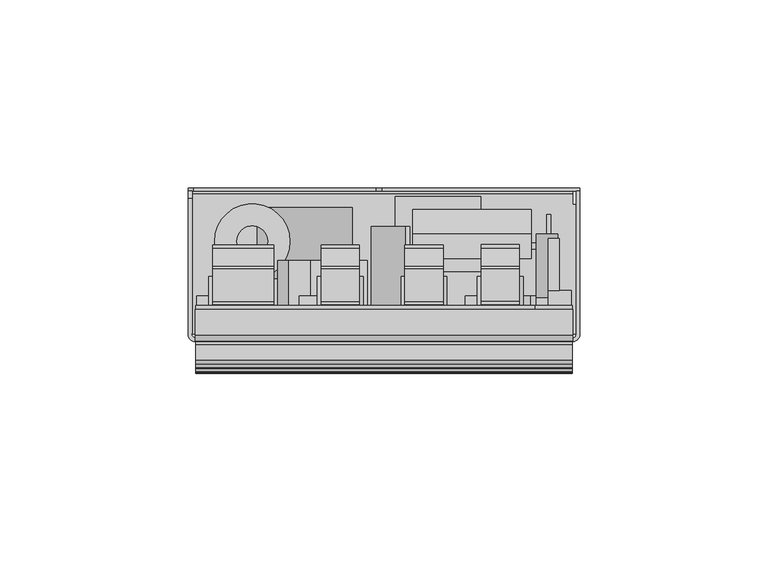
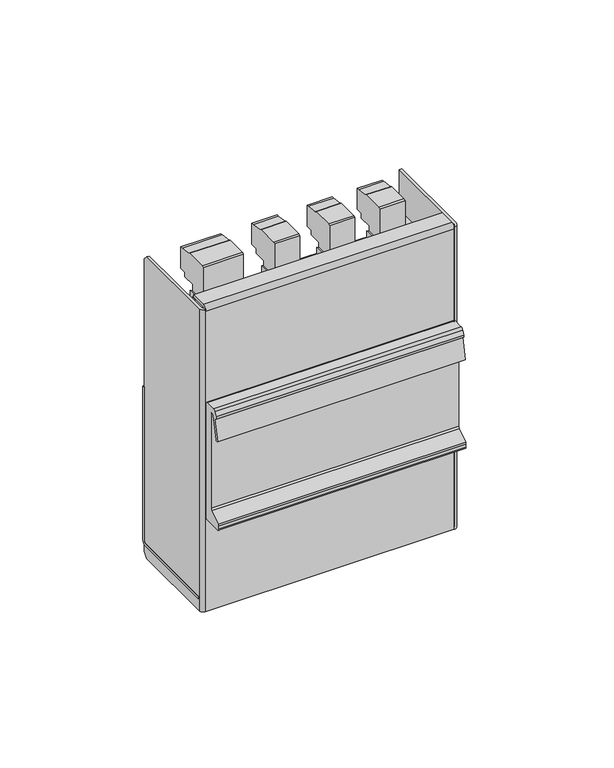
"""IFC4 building model written with IfcOpenShell, lengths in millimetres: proxy geometry, FITIN 12V 6A CG1 : FITIN 12V 6A CG1."""

from ifc_helpers import new_model, si_unit, point, frame, frame_2d, origin, place, context, project, spatial, polyline, circle_curve, trimmed, segment, composite_curve, outline, extrude, source, transform, mapped, element, save
from ifc_brep_helpers import plane_surface, cylinder_surface, revolved_surface, advanced_brep


def electrical_equipment_25405dab(model_context):
    return source(origin(), model_context, "Body", "SolidModel", [
        extrude(outline(composite_curve([segment(polyline([(-0.6225672, 139.52), (8.0448786, 139.52), (8.7300831, 139.124397), (13.4867371, 138.4135103), (14.4539059, 138.4135103), (14.4539059, 129.36), (11.5126565, 129.36), (11.5126565, 127.51), (6.1055, 127.51), (5.966034, 119.52), (-0.0873435, 119.52), (-0.0873435, 127.51), (-1.3898441, 127.51), (-1.3898441, 139.21)]), True, "CONTINUOUS"), segment(trimmed(circle_curve(frame_2d((-1.2764233, 140.0338121)), 0.8315832), [point((-1.3898441, 139.21))], [point((-0.6225672, 139.52))], True, "CARTESIAN"), True, "CONTINUOUS")], self_intersect=False)), frame((-42.8751438, 0.0, 0.0), z_axis=(1.0, 0.0, 0.0), x_axis=(0.0, 1.0, 0.0)), (0.0, 0.0, 1.0), 16.24),
        extrude(outline(composite_curve([segment(polyline([(-0.6225672, 139.52), (8.0448786, 139.52), (8.7300831, 139.124397), (13.4867371, 138.4135103), (14.4539059, 138.4135103), (14.4539059, 129.36), (11.5126565, 129.36), (11.5126565, 127.51), (6.1055, 127.51), (5.966034, 119.52), (-0.0873435, 119.52), (-0.0873435, 127.51), (-1.3898441, 127.51), (-1.3898441, 139.21)]), True, "CONTINUOUS"), segment(trimmed(circle_curve(frame_2d((-1.2764233, 140.0338121)), 0.8315832), [point((-1.3898441, 139.21))], [point((-0.6225672, 139.52))], True, "CARTESIAN"), True, "CONTINUOUS")], self_intersect=False)), frame((-14.0791059, 0.0, 0.0), z_axis=(1.0, 0.0, 0.0), x_axis=(0.0, 1.0, 0.0)), (0.0, 0.0, 1.0), 10.16),
        extrude(outline(polyline([(46.2900562, 16.0826559), (49.1800562, 16.0826559), (49.1800562, 2.3326559), (46.2900562, 2.3326559), (46.2900562, 16.0826559)])), frame((0.0, 0.0, 112.9298), z_axis=(0.0, 0.0, 1.0), x_axis=(1.0, 0.0, 0.0)), (0.0, 0.0, 1.0), 5.12),
        extrude(outline(polyline([(46.2900562, 2.3326559), (52.2900562, 2.3326559), (52.2900562, -1.6673441), (46.2900562, -1.6673441), (46.2900562, 2.3326559)])), frame((0.0, 0.0, 112.9298), z_axis=(0.0, 0.0, 1.0), x_axis=(1.0, 0.0, 0.0)), (0.0, 0.0, 1.0), 5.08),
        extrude(outline(polyline([(43.1150562, 0.3326559), (50.3540562, 0.3326559), (50.3540562, -1.6673441), (43.1150562, -1.6673441), (43.1150562, 0.3326559)])), frame((0.0, 0.0, 101.4998), z_axis=(0.0, 0.0, 1.0), x_axis=(1.0, 0.0, 0.0)), (0.0, 0.0, 1.0), 10.16),
        extrude(outline(composite_curve([segment(polyline([(6.4928421, 128.4098108), (9.3939564, 128.4098108)]), True, "CONTINUOUS"), segment(trimmed(circle_curve(frame_2d((8.0093301, 128.4067828)), 1.3846296), [point((9.3939564, 128.4098108))], [point((8.8958553, 127.3431699))], False, "CARTESIAN"), True, "CONTINUOUS"), segment(polyline([(8.8958553, 127.3431699), (8.1900779, 124.8818317), (7.8047422, 124.0554767), (7.1411514, 123.3918859)]), True, "CONTINUOUS"), segment(trimmed(circle_curve(frame_2d((6.9115007, 123.7572144)), 0.4315141), [point((7.1411514, 123.3918859))], [point((6.5190561, 123.9366345))], False, "CARTESIAN"), True, "CONTINUOUS"), segment(trimmed(circle_curve(frame_2d((5.8815125, 124.8818317)), 1.1401138), [point((6.5190561, 123.9366345))], [point((7.0216263, 124.8818317))], True, "CARTESIAN"), True, "CONTINUOUS"), segment(polyline([(7.0216263, 124.8818317), (7.0216263, 126.4256423), (6.4928421, 127.5098108), (6.4928421, 128.4098108)]), True, "CONTINUOUS")], self_intersect=False)), frame((-39.2881554, 0.0, 0.0), z_axis=(1.0, 0.0, 0.0), x_axis=(0.0, 1.0, 0.0)), (0.0, 0.0, 1.0), 1.5),
        extrude(outline(composite_curve([segment(polyline([(6.4928421, 128.4098108), (9.3939564, 128.4098108)]), True, "CONTINUOUS"), segment(trimmed(circle_curve(frame_2d((8.0093301, 128.4067828)), 1.3846296), [point((9.3939564, 128.4098108))], [point((8.8958553, 127.3431699))], False, "CARTESIAN"), True, "CONTINUOUS"), segment(polyline([(8.8958553, 127.3431699), (8.1900779, 124.8818317), (7.8047422, 124.0554767), (7.1411514, 123.3918859)]), True, "CONTINUOUS"), segment(trimmed(circle_curve(frame_2d((6.9115007, 123.7572144)), 0.4315141), [point((7.1411514, 123.3918859))], [point((6.5190561, 123.9366345))], False, "CARTESIAN"), True, "CONTINUOUS"), segment(trimmed(circle_curve(frame_2d((5.8815125, 124.8818317)), 1.1401138), [point((6.5190561, 123.9366345))], [point((7.0216263, 124.8818317))], True, "CARTESIAN"), True, "CONTINUOUS"), segment(polyline([(7.0216263, 124.8818317), (7.0216263, 126.4256423), (6.4928421, 127.5098108), (6.4928421, 128.4098108)]), True, "CONTINUOUS")], self_intersect=False)), frame((-32.7078756, 0.0, 0.0), z_axis=(1.0, 0.0, 0.0), x_axis=(0.0, 1.0, 0.0)), (0.0, 0.0, 1.0), 1.5),
        extrude(outline(composite_curve([segment(polyline([(6.4928421, 128.4098108), (9.3939564, 128.4098108)]), True, "CONTINUOUS"), segment(trimmed(circle_curve(frame_2d((8.0093301, 128.4067828)), 1.3846296), [point((9.3939564, 128.4098108))], [point((8.8958553, 127.3431699))], False, "CARTESIAN"), True, "CONTINUOUS"), segment(polyline([(8.8958553, 127.3431699), (8.1900779, 124.8818317), (7.8047422, 124.0554767), (7.1411514, 123.3918859)]), True, "CONTINUOUS"), segment(trimmed(circle_curve(frame_2d((6.9115007, 123.7572144)), 0.4315141), [point((7.1411514, 123.3918859))], [point((6.5190561, 123.9366345))], False, "CARTESIAN"), True, "CONTINUOUS"), segment(trimmed(circle_curve(frame_2d((5.8815125, 124.8818317)), 1.1401138), [point((6.5190561, 123.9366345))], [point((7.0216263, 124.8818317))], True, "CARTESIAN"), True, "CONTINUOUS"), segment(polyline([(7.0216263, 124.8818317), (7.0216263, 126.4256423), (6.4928421, 127.5098108), (6.4928421, 128.4098108)]), True, "CONTINUOUS")], self_intersect=False)), frame((-10.5056633, 0.0, 0.0), z_axis=(1.0, 0.0, 0.0), x_axis=(0.0, 1.0, 0.0)), (0.0, 0.0, 1.0), 1.5),
        extrude(outline(composite_curve([segment(polyline([(6.536418, 127.9242368), (9.4375324, 127.9242368)]), True, "CONTINUOUS"), segment(trimmed(circle_curve(frame_2d((8.0529061, 127.9212088)), 1.3846296), [point((9.4375324, 127.9242368))], [point((8.9394312, 126.8575959))], False, "CARTESIAN"), True, "CONTINUOUS"), segment(polyline([(8.9394312, 126.8575959), (8.2336539, 124.3962578), (7.8483182, 123.5699027), (7.1847274, 122.9063119)]), True, "CONTINUOUS"), segment(trimmed(circle_curve(frame_2d((6.9550767, 123.2716405)), 0.4315141), [point((7.1847274, 122.9063119))], [point((6.562632, 123.4510606))], False, "CARTESIAN"), True, "CONTINUOUS"), segment(trimmed(circle_curve(frame_2d((5.9250885, 124.3962578)), 1.1401138), [point((6.562632, 123.4510606))], [point((7.0652023, 124.3962578))], True, "CARTESIAN"), True, "CONTINUOUS"), segment(polyline([(7.0652023, 124.3962578), (7.0652023, 125.9400684), (6.536418, 127.0242368), (6.536418, 127.9242368)]), True, "CONTINUOUS")], self_intersect=False)), frame((32.0248562, 0.0, 0.0), z_axis=(1.0, 0.0, 0.0), x_axis=(0.0, 1.0, 0.0)), (0.0, 0.0, 1.0), 1.5),
        extrude(outline(composite_curve([segment(polyline([(6.5081453, 128.4024494), (9.4092597, 128.4024494)]), True, "CONTINUOUS"), segment(trimmed(circle_curve(frame_2d((8.0246334, 128.3994215)), 1.3846296), [point((9.4092597, 128.4024494))], [point((8.9111585, 127.3358086))], False, "CARTESIAN"), True, "CONTINUOUS"), segment(polyline([(8.9111585, 127.3358086), (8.2053811, 124.8744704), (7.8200455, 124.0481154), (7.1564546, 123.3845246)]), True, "CONTINUOUS"), segment(trimmed(circle_curve(frame_2d((6.9268039, 123.7498531)), 0.4315141), [point((7.1564546, 123.3845246))], [point((6.5343593, 123.9292732))], False, "CARTESIAN"), True, "CONTINUOUS"), segment(trimmed(circle_curve(frame_2d((5.8968157, 124.8744704)), 1.1401138), [point((6.5343593, 123.9292732))], [point((7.0369296, 124.8744704))], True, "CARTESIAN"), True, "CONTINUOUS"), segment(polyline([(7.0369296, 124.8744704), (7.0369296, 126.418281), (6.5081453, 127.5024494), (6.5081453, 128.4024494)]), True, "CONTINUOUS")], self_intersect=False)), frame((11.7548562, 0.0, 0.0), z_axis=(1.0, 0.0, 0.0), x_axis=(0.0, 1.0, 0.0)), (0.0, 0.0, 1.0), 1.5),
        extrude(outline(composite_curve([segment(polyline([(6.4943559, 128.41), (9.3954703, 128.41)]), True, "CONTINUOUS"), segment(trimmed(circle_curve(frame_2d((8.0108439, 128.406972)), 1.3846296), [point((9.3954703, 128.41))], [point((8.8973691, 127.3433591))], False, "CARTESIAN"), True, "CONTINUOUS"), segment(polyline([(8.8973691, 127.3433591), (8.1915917, 124.882021), (7.806256, 124.055666), (7.1426652, 123.3920752)]), True, "CONTINUOUS"), segment(trimmed(circle_curve(frame_2d((6.9130145, 123.7574037)), 0.4315141), [point((7.1426652, 123.3920752))], [point((6.5205699, 123.9368238))], False, "CARTESIAN"), True, "CONTINUOUS"), segment(trimmed(circle_curve(frame_2d((5.8830263, 124.882021)), 1.1401138), [point((6.5205699, 123.9368238))], [point((7.0231401, 124.882021))], True, "CARTESIAN"), True, "CONTINUOUS"), segment(polyline([(7.0231401, 124.882021), (7.0231401, 126.4258316), (6.4943559, 127.51), (6.4943559, 128.41)]), True, "CONTINUOUS")], self_intersect=False)), frame((11.7548562, 0.0, 0.0), z_axis=(1.0, 0.0, 0.0), x_axis=(0.0, 1.0, 0.0)), (0.0, 0.0, 1.0), 1.5),
        extrude(outline(polyline([(118.02, 39.6048562), (125.82, 39.6048562), (125.32, 38.6063796), (119.37, 38.6063796), (119.37, 28.4463796), (125.3192383, 28.4463796), (125.82, 27.4448562), (117.9801643, 27.4448562), (118.4809272, 28.4448562), (115.92, 28.4448562), (115.92, 38.6048562), (118.52, 38.6048562), (118.02, 39.6048562)])), frame((0.0, -1.6673441, 0.0), z_axis=(0.0, 1.0, 0.0), x_axis=(0.0, 0.0, 1.0)), (0.0, 0.0, 1.0), 7.68),
        extrude(outline(polyline([(115.92, 18.3348562), (118.5009725, 18.3348562), (118.0009725, 19.3348562), (125.82, 19.3348562), (125.3192371, 18.3348562), (119.37, 18.3348562), (119.37, 8.1748562), (125.32, 8.1748562), (125.8238762, 7.1748562), (117.9882906, 7.1748562), (118.52, 8.1748562), (115.92, 8.1748562), (115.92, 18.3348562)])), frame((0.0, -1.6673441, 0.0), z_axis=(0.0, 1.0, 0.0), x_axis=(0.0, 0.0, 1.0)), (0.0, 0.0, 1.0), 7.68),
        extrude(outline(polyline([(115.92, -3.8951438), (118.52, -3.8951438), (118.02, -2.8951438), (125.82, -2.8951438), (125.339643, -3.8951695), (119.37, -3.8951695), (119.37, -14.0570005), (125.3209283, -14.0570005), (125.82, -15.0551438), (118.02, -15.0551438), (118.52, -14.0551438), (115.92, -14.0551438), (115.92, -3.8951438)])), frame((0.0, -1.6673441, 0.0), z_axis=(0.0, 1.0, 0.0), x_axis=(0.0, 0.0, 1.0)), (0.0, 0.0, 1.0), 7.68),
        extrude(outline(polyline([(115.51, -27.6351438), (118.11, -27.6351438), (117.61, -26.6351438), (125.41, -26.6351438), (124.91, -27.6351438), (118.9617525, -27.6351438), (118.9617525, -42.8751438), (124.91, -42.8751438), (125.41, -43.8751438), (117.580438, -43.8751438), (118.11, -42.8791825), (115.51, -42.8791825), (115.51, -27.6351438)])), frame((0.0, -1.6673441, 0.0), z_axis=(0.0, 1.0, 0.0), x_axis=(0.0, 0.0, 1.0)), (0.0, 0.0, 1.0), 7.68),
        extrude(outline(composite_curve([segment(polyline([(-1.3898441, 127.51), (-1.3898441, 139.21)]), True, "CONTINUOUS"), segment(trimmed(circle_curve(frame_2d((-1.2764233, 140.0338121)), 0.8315832), [point((-1.3898441, 139.21))], [point((-0.6225672, 139.52))], True, "CARTESIAN"), True, "CONTINUOUS"), segment(polyline([(-0.6225672, 139.52), (8.0448786, 139.52), (8.7233273, 139.1282975), (13.4626565, 138.42), (14.4626565, 138.42), (14.4626565, 129.52), (11.5126565, 129.52), (11.5126565, 127.51), (6.1055, 127.51), (5.966034, 119.52), (-0.0873435, 119.52), (-0.0873435, 127.51), (-1.3898441, 127.51)]), True, "CONTINUOUS")], self_intersect=False)), frame((28.4463796, 0.0, 0.0), z_axis=(1.0, 0.0, 0.0), x_axis=(0.0, 1.0, 0.0)), (0.0, 0.0, 1.0), 10.16),
        extrude(outline(composite_curve([segment(polyline([(-0.6225672, 139.52), (8.0448786, 139.52), (8.7300831, 139.124397), (13.4867371, 138.4135103), (14.4539059, 138.4135103), (14.4539059, 129.36), (11.5126565, 129.36), (11.5126565, 127.51), (6.1055, 127.51), (5.966034, 119.52), (-0.0873435, 119.52), (-0.0873435, 127.51), (-1.3898441, 127.51), (-1.3898441, 139.21)]), True, "CONTINUOUS"), segment(trimmed(circle_curve(frame_2d((-1.2764233, 140.0338121)), 0.8315832), [point((-1.3898441, 139.21))], [point((-0.6225672, 139.52))], True, "CARTESIAN"), True, "CONTINUOUS")], self_intersect=False)), frame((8.1748562, 0.0, 0.0), z_axis=(1.0, 0.0, 0.0), x_axis=(0.0, 1.0, 0.0)), (0.0, 0.0, 1.0), 10.16),
        extrude(outline(polyline([(23.8727984, 99.3408), (20.5227984, 99.3408), (20.5227984, 91.4408), (15.3727984, 91.4408), (15.3727984, 99.3408), (11.8727984, 99.3408), (11.8727984, 100.3408), (10.8727984, 100.3408), (10.8727984, 109.7408), (17.3727984, 109.7408), (23.8727984, 108.7408), (23.8727984, 99.3408)])), frame((10.2362562, 0.0, 0.0), z_axis=(1.0, 0.0, 0.0), x_axis=(0.0, 1.0, 0.0)), (0.0, 0.0, 1.0), 31.5),
        extrude(outline(composite_curve([segment(trimmed(circle_curve(frame_2d((94.6418967, 45.9139051)), 2.8), [point((94.6418967, 43.1139051))], [point((94.6418967, 48.7139051))], False, "CARTESIAN"), True, "CONTINUOUS"), segment(trimmed(circle_curve(frame_2d((94.6418967, 45.9139051)), 2.8), [point((94.6418967, 48.7139051))], [point((94.6418967, 43.1139051))], False, "CARTESIAN"), True, "CONTINUOUS")], self_intersect=False)), frame((0.0, -1.6673441, 0.0), z_axis=(0.0, 1.0, 0.0), x_axis=(0.0, 0.0, 1.0)), (0.0, 0.0, 1.0), 19.0401425),
        extrude(outline(composite_curve([segment(trimmed(circle_curve(frame_2d((112.3659987, 26.958222)), 2.7), [point((112.3659987, 24.258222))], [point((112.3659987, 29.658222))], False, "CARTESIAN"), True, "CONTINUOUS"), segment(trimmed(circle_curve(frame_2d((112.3659987, 26.958222)), 2.7), [point((112.3659987, 29.658222))], [point((112.3659987, 24.258222))], False, "CARTESIAN"), True, "CONTINUOUS")], self_intersect=False)), frame((0.0, -1.6673441, 0.0), z_axis=(0.0, 1.0, 0.0), x_axis=(0.0, 0.0, 1.0)), (0.0, 0.0, 1.0), 2.5),
        extrude(outline(composite_curve([segment(trimmed(circle_curve(frame_2d((112.3659987, -17.1323669)), 2.7), [point((112.3659987, -19.8323669))], [point((112.3659987, -14.4323669))], False, "CARTESIAN"), True, "CONTINUOUS"), segment(trimmed(circle_curve(frame_2d((112.3659987, -17.1323669)), 2.7), [point((112.3659987, -14.4323669))], [point((112.3659987, -19.8323669))], False, "CARTESIAN"), True, "CONTINUOUS")], self_intersect=False)), frame((0.0, -1.6673441, 0.0), z_axis=(0.0, 1.0, 0.0), x_axis=(0.0, 0.0, 1.0)), (0.0, 0.0, 1.0), 2.5),
        extrude(outline(composite_curve([segment(trimmed(circle_curve(frame_2d((64.5509349, -44.3898899)), 2.8), [point((64.5509349, -47.1898899))], [point((64.5509349, -41.5898899))], False, "CARTESIAN"), True, "CONTINUOUS"), segment(trimmed(circle_curve(frame_2d((64.5509349, -44.3898899)), 2.8), [point((64.5509349, -41.5898899))], [point((64.5509349, -47.1898899))], False, "CARTESIAN"), True, "CONTINUOUS")], self_intersect=False)), frame((0.0, -1.6673441, 0.0), z_axis=(0.0, 1.0, 0.0), x_axis=(0.0, 0.0, 1.0)), (0.0, 0.0, 1.0), 2.5),
        extrude(outline(composite_curve([segment(trimmed(circle_curve(frame_2d((64.5509349, 38.617835)), 2.8), [point((64.5509349, 35.817835))], [point((64.5509349, 41.417835))], False, "CARTESIAN"), True, "CONTINUOUS"), segment(trimmed(circle_curve(frame_2d((64.5509349, 38.617835)), 2.8), [point((64.5509349, 41.417835))], [point((64.5509349, 35.817835))], False, "CARTESIAN"), True, "CONTINUOUS")], self_intersect=False)), frame((0.0, -1.6673441, 0.0), z_axis=(0.0, 1.0, 0.0), x_axis=(0.0, 0.0, 1.0)), (0.0, 0.0, 1.0), 2.5),
        extrude(outline(composite_curve([segment(trimmed(circle_curve(frame_2d((9.6974102, 43.6814018)), 2.8), [point((9.6974102, 40.8814018))], [point((9.6974102, 46.4814018))], False, "CARTESIAN"), True, "CONTINUOUS"), segment(trimmed(circle_curve(frame_2d((9.6974102, 43.6814018)), 2.8), [point((9.6974102, 46.4814018))], [point((9.6974102, 40.8814018))], False, "CARTESIAN"), True, "CONTINUOUS")], self_intersect=False)), frame((0.0, -1.6673441, 0.0), z_axis=(0.0, 1.0, 0.0), x_axis=(0.0, 0.0, 1.0)), (0.0, 0.0, 1.0), 2.5),
        extrude(outline(composite_curve([segment(trimmed(circle_curve(frame_2d((9.9303557, -40.5549746)), 2.8), [point((9.9303557, -43.3549746))], [point((9.9303557, -37.7549746))], False, "CARTESIAN"), True, "CONTINUOUS"), segment(trimmed(circle_curve(frame_2d((9.9303557, -40.5549746)), 2.8), [point((9.9303557, -37.7549746))], [point((9.9303557, -43.3549746))], False, "CARTESIAN"), True, "CONTINUOUS")], self_intersect=False)), frame((0.0, -1.6673441, 0.0), z_axis=(0.0, 1.0, 0.0), x_axis=(0.0, 0.0, 1.0)), (0.0, 0.0, 1.0), 2.5),
        extrude(outline(composite_curve([segment(trimmed(circle_curve(frame_2d((67.5630622, 16.5635702)), 2.584828), [point((67.5630622, 13.9787422))], [point((67.5630622, 19.1483982))], False, "CARTESIAN"), True, "CONTINUOUS"), segment(trimmed(circle_curve(frame_2d((67.5630622, 16.5635702)), 2.584828), [point((67.5630622, 19.1483982))], [point((67.5630622, 13.9787422))], False, "CARTESIAN"), True, "CONTINUOUS")], self_intersect=False)), frame((0.0, 14.9326559, 0.0), z_axis=(0.0, 1.0, 0.0), x_axis=(0.0, 0.0, 1.0)), (0.0, 0.0, 1.0), 5.7415653),
        extrude(outline(composite_curve([segment(trimmed(circle_curve(frame_2d((54.6597105, 26.5793054)), 2.6), [point((54.6597105, 23.9793054))], [point((54.6597105, 29.1793054))], False, "CARTESIAN"), True, "CONTINUOUS"), segment(trimmed(circle_curve(frame_2d((54.6597105, 26.5793054)), 2.6), [point((54.6597105, 29.1793054))], [point((54.6597105, 23.9793054))], False, "CARTESIAN"), True, "CONTINUOUS")], self_intersect=False)), frame((0.0, 14.9326559, 0.0), z_axis=(0.0, 1.0, 0.0), x_axis=(0.0, 0.0, 1.0)), (0.0, 0.0, 1.0), 5.7415653),
        extrude(outline(polyline([(15.7084562, -1.6673441), (14.6416562, -1.6673441), (14.6416562, 22.4551735), (15.7084562, 22.4551735), (15.7084562, -1.6673441)])), frame((0.0, 0.0, 74.1694), z_axis=(0.0, 0.0, 1.0), x_axis=(1.0, 0.0, 0.0)), (0.0, 0.0, 1.0), 12.827),
        extrude(outline(polyline([(46.8996562, -1.6673441), (45.8074562, -1.6673441), (45.8074562, 22.4551735), (46.8996562, 22.4551735), (46.8996562, -1.6673441)])), frame((0.0, 0.0, 54.1796), z_axis=(0.0, 0.0, 1.0), x_axis=(1.0, 0.0, 0.0)), (0.0, 0.0, 1.0), 12.8524),
        extrude(outline(polyline([(47.3060562, 13.3326559), (12.5080562, 13.3326559), (12.5080562, 14.9326559), (47.3060562, 14.9326559), (47.3060562, 13.3326559)])), frame((0.0, 0.0, 50.4458), z_axis=(0.0, 0.0, 1.0), x_axis=(1.0, 0.0, 0.0)), (0.0, 0.0, 1.0), 41.6522),
        extrude(outline(polyline([(5.6368562, 27.3326559), (28.3708562, 27.3326559), (28.3708562, 7.3326559), (5.6368562, 7.3326559), (5.6368562, 27.3326559)])), frame((0.0, 0.0, 14.6826), z_axis=(0.0, 0.0, 1.0), x_axis=(1.0, 0.0, 0.0)), (0.0, 0.0, 1.0), 27.4669484),
        extrude(outline(composite_curve([segment(trimmed(circle_curve(frame_2d((-32.3935424, 15.3844607)), 10.0), [point((-22.3935424, 15.3844607))], [point((-42.3935424, 15.3844607))], False, "CARTESIAN"), True, "CONTINUOUS"), segment(trimmed(circle_curve(frame_2d((-32.3935424, 15.3844607)), 10.0), [point((-42.3935424, 15.3844607))], [point((-22.3935424, 15.3844607))], False, "CARTESIAN"), True, "CONTINUOUS")], self_intersect=False), holes=[composite_curve([segment(trimmed(circle_curve(frame_2d((-32.3896908, 15.3597925)), 4.1031673), [point((-28.2865234, 15.3597925))], [point((-36.4928581, 15.3597925))], True, "CARTESIAN"), True, "CONTINUOUS"), segment(trimmed(circle_curve(frame_2d((-32.3896908, 15.3597925)), 4.1031673), [point((-36.4928581, 15.3597925))], [point((-28.2865234, 15.3597925))], True, "CARTESIAN"), True, "CONTINUOUS")], self_intersect=False)]), frame((0.0, 0.0, 59.8438), z_axis=(0.0, 0.0, 1.0), x_axis=(1.0, 0.0, 0.0)), (0.0, 0.0, 1.0), 13.1064),
        extrude(outline(polyline([(1.6368562, 7.3326559), (32.3708562, 7.3326559), (32.3708562, -1.6673441), (1.6368562, -1.6673441), (1.6368562, 7.3326559)])), frame((0.0, 0.0, 14.6826), z_axis=(0.0, 0.0, 1.0), x_axis=(1.0, 0.0, 0.0)), (0.0, 0.0, 1.0), 27.4669484),
        extrude(outline(polyline([(-43.8799438, 5.3326559), (-20.8929438, 5.3326559), (-20.8929438, -1.6673441), (-43.8799438, -1.6673441), (-43.8799438, 5.3326559)])), frame((0.0, 0.0, 59.8438), z_axis=(0.0, 0.0, 1.0), x_axis=(1.0, 0.0, 0.0)), (0.0, 0.0, 1.0), 13.1064),
        extrude(outline(composite_curve([segment(trimmed(circle_curve(frame_2d((18.8686581, -18.4076289)), 12.6), [point((18.8686581, -31.0076289))], [point((18.8686581, -5.8076289))], False, "CARTESIAN"), True, "CONTINUOUS"), segment(trimmed(circle_curve(frame_2d((18.8686581, -18.4076289)), 12.6), [point((18.8686581, -5.8076289))], [point((18.8686581, -31.0076289))], False, "CARTESIAN"), True, "CONTINUOUS")], self_intersect=False)), frame((0.0, -1.6673441, 0.0), z_axis=(0.0, 1.0, 0.0), x_axis=(0.0, 0.0, 1.0)), (0.0, 0.0, 1.0), 26.0),
        extrude(outline(composite_curve([segment(trimmed(circle_curve(frame_2d((71.5559369, 3.774844)), 4.4854922), [point((71.5559369, -0.7106482))], [point((71.5559369, 8.2603361))], False, "CARTESIAN"), True, "CONTINUOUS"), segment(trimmed(circle_curve(frame_2d((71.5559369, 3.774844)), 4.4854922), [point((71.5559369, 8.2603361))], [point((71.5559369, -0.7106482))], False, "CARTESIAN"), True, "CONTINUOUS")], self_intersect=False)), frame((0.0, -1.6673441, 0.0), z_axis=(0.0, 1.0, 0.0), x_axis=(0.0, 0.0, 1.0)), (0.0, 0.0, 1.0), 21.0),
        extrude(outline(composite_curve([segment(trimmed(circle_curve(frame_2d((61.3996869, 5.024844)), 4.4854922), [point((61.3996869, 0.5393518))], [point((61.3996869, 9.5103361))], False, "CARTESIAN"), True, "CONTINUOUS"), segment(trimmed(circle_curve(frame_2d((61.3996869, 5.024844)), 4.4854922), [point((61.3996869, 9.5103361))], [point((61.3996869, 0.5393518))], False, "CARTESIAN"), True, "CONTINUOUS")], self_intersect=False)), frame((0.0, -1.6673441, 0.0), z_axis=(0.0, 1.0, 0.0), x_axis=(0.0, 0.0, 1.0)), (0.0, 0.0, 1.0), 21.0),
        extrude(outline(composite_curve([segment(trimmed(circle_curve(frame_2d((51.2515722, 5.024844)), 4.4854922), [point((51.2515722, 0.5393518))], [point((51.2515722, 9.5103361))], False, "CARTESIAN"), True, "CONTINUOUS"), segment(trimmed(circle_curve(frame_2d((51.2515722, 5.024844)), 4.4854922), [point((51.2515722, 9.5103361))], [point((51.2515722, 0.5393518))], False, "CARTESIAN"), True, "CONTINUOUS")], self_intersect=False)), frame((0.0, -1.6673441, 0.0), z_axis=(0.0, 1.0, 0.0), x_axis=(0.0, 0.0, 1.0)), (0.0, 0.0, 1.0), 21.0),
        extrude(outline(composite_curve([segment(polyline([(105.7670185, -32.7321438), (105.7670185, -38.4041401)]), True, "CONTINUOUS"), segment(trimmed(circle_curve(frame_2d((102.7301403, -38.4041401)), 3.0368782), [point((105.7670185, -38.4041401))], [point((103.2923439, -41.3885256))], False, "CARTESIAN"), True, "CONTINUOUS"), segment(polyline([(103.2923439, -41.3885256), (76.7348, -41.3885256), (76.7348, -29.7321438), (102.7670185, -29.7321438)]), True, "CONTINUOUS"), segment(trimmed(circle_curve(frame_2d((102.7670185, -32.7321438)), 3.0), [point((102.7670185, -29.7321438))], [point((105.7670185, -32.7321438))], False, "CARTESIAN"), True, "CONTINUOUS")], self_intersect=False)), frame((0.0, -1.6673441, 0.0), z_axis=(0.0, 1.0, 0.0), x_axis=(0.0, 0.0, 1.0)), (0.0, 0.0, 1.0), 12.0),
        extrude(outline(composite_curve([segment(polyline([(102.8098729, -25.6269446), (76.7348, -25.6269446), (76.7348, -13.8571438), (102.8098729, -13.8571438)]), True, "CONTINUOUS"), segment(trimmed(circle_curve(frame_2d((102.8098729, -16.8571438)), 3.0), [point((102.8098729, -13.8571438))], [point((105.8098729, -16.8571438))], False, "CARTESIAN"), True, "CONTINUOUS"), segment(polyline([(105.8098729, -16.8571438), (105.8098729, -22.6269446)]), True, "CONTINUOUS"), segment(trimmed(circle_curve(frame_2d((102.8098729, -22.6269446)), 3.0), [point((105.8098729, -22.6269446))], [point((102.8098729, -25.6269446))], False, "CARTESIAN"), True, "CONTINUOUS")], self_intersect=False)), frame((0.0, -1.6673441, 0.0), z_axis=(0.0, 1.0, 0.0), x_axis=(0.0, 0.0, 1.0)), (0.0, 0.0, 1.0), 12.0),
        extrude(outline(composite_curve([segment(polyline([(102.7670185, -13.5311846), (76.7348, -13.5311846), (76.7348, -1.7921438), (102.7670185, -1.7921438)]), True, "CONTINUOUS"), segment(trimmed(circle_curve(frame_2d((102.7670185, -4.7921438)), 3.0), [point((102.7670185, -1.7921438))], [point((105.7670185, -4.7921438))], False, "CARTESIAN"), True, "CONTINUOUS"), segment(polyline([(105.7670185, -4.7921438), (105.7670185, -10.5311846)]), True, "CONTINUOUS"), segment(trimmed(circle_curve(frame_2d((102.7670185, -10.5311846)), 3.0), [point((105.7670185, -10.5311846))], [point((102.7670185, -13.5311846))], False, "CARTESIAN"), True, "CONTINUOUS")], self_intersect=False)), frame((0.0, -1.6673441, 0.0), z_axis=(0.0, 1.0, 0.0), x_axis=(0.0, 0.0, 1.0)), (0.0, 0.0, 1.0), 12.0),
        advanced_brep(
        [(-49.3853438, 29.5326559, 6.548), (-49.3853438, 27.9326559, 4.948), (-49.3853438, -9.2673441, 4.948), (-49.3853438, -9.2673441, 5.748), (-49.3853438, 27.9326559, 5.748), (-49.3853438, 28.7326559, 6.548), (-49.3853438, 28.7326559, 72.048), (-49.3853438, 29.5326559, 72.048), (54.6146562, -9.2673441, 5.748), (54.6146562, -9.2673441, 4.948), (54.6146562, 22.8683496, 4.948), (54.6146562, 25.1546288, 5.748), (54.6146562, 29.5326559, 6.548), (54.6146562, 29.5326559, 92.098), (54.6146562, 28.7326559, 92.098), (54.6146562, 28.7326559, 5.1623594), (2.1146562, 29.5326559, 92.098), (2.1146562, 28.7326559, 92.098), (-47.8853438, 29.5326559, 73.548), (0.6146562, 29.5326559, 73.548), (0.6146562, 29.5326559, 90.598), (52.8146562, 28.7326559, 5.1623594), (52.8146562, 27.9326559, 4.948), (52.8146562, 22.8683496, 4.948), (52.8146562, 25.1546288, 5.748), (52.8146562, 27.9326559, 5.748), (52.8146562, 28.7326559, 6.548), (0.6146562, 28.7326559, 90.598), (0.6146562, 28.7326559, 73.548), (-47.8853438, 28.7326559, 73.548)],
        [
            (0, 1, circle_curve(frame((-49.3853438, 27.9326559, 6.548), z_axis=(-1.0, 0.0, 0.0), x_axis=(0.0, 0.0, -1.0)), 1.6)),
            (1, 2),
            (2, 3),
            (3, 4),
            (4, 5, circle_curve(frame((-49.3853438, 27.9326559, 6.548), z_axis=(1.0, 0.0, 0.0), x_axis=(0.0, 0.0, -1.0)), 0.8)),
            (5, 6),
            (6, 7),
            (7, 0),
            (8, 9),
            (9, 10),
            (10, 11),
            (11, 8),
            (12, 13),
            (13, 14),
            (14, 15),
            (15, 12, circle_curve(frame((54.6146562, 27.9326559, 6.548), z_axis=(1.0, 0.0, 0.0), x_axis=(0.0, 0.0, -1.0)), 1.6)),
            (13, 16),
            (16, 17),
            (17, 14),
            (12, 0),
            (7, 18),
            (18, 19),
            (19, 20),
            (20, 16),
            (15, 21),
            (21, 22, circle_curve(frame((52.8146562, 27.9326559, 6.548), z_axis=(-1.0, 0.0, 0.0), x_axis=(0.0, 0.0, -1.0)), 1.6)),
            (22, 1),
            (22, 23),
            (23, 10),
            (9, 2),
            (8, 3),
            (11, 24),
            (24, 25),
            (25, 4),
            (25, 26, circle_curve(frame((52.8146562, 27.9326559, 6.548), z_axis=(1.0, 0.0, 0.0), x_axis=(0.0, 0.0, -1.0)), 0.8)),
            (26, 5),
            (26, 21),
            (17, 27),
            (27, 28),
            (28, 29),
            (29, 6),
            (28, 19),
            (18, 29),
            (27, 20),
            (24, 23),
        ],
        [
            plane_surface(frame((-49.3853438, 29.5326559, 92.098), z_axis=(-1.0, 0.0, 0.0), x_axis=(0.0, 1.0, 0.0))),
            plane_surface(frame((54.6146562, 29.5326559, 92.098), z_axis=(1.0, 0.0, 0.0), x_axis=(0.0, -1.0, 0.0))),
            plane_surface(frame((-49.3853438, 28.7326559, 92.098), z_axis=(0.0, 0.0, 1.0), x_axis=(1.0, 0.0, 0.0))),
            plane_surface(frame((-49.3853438, 29.5326559, 92.098), z_axis=(0.0, 1.0, 0.0), x_axis=(1.0, 0.0, 0.0))),
            cylinder_surface(frame((54.6146562, 27.9326559, 6.548), z_axis=(-1.0, 0.0, 0.0), x_axis=(0.0, 0.0, -1.0)), 1.6),
            plane_surface(frame((-49.3853438, 27.9326559, 4.948), z_axis=(0.0, 0.0, -1.0), x_axis=(1.0, 0.0, 0.0))),
            plane_surface(frame((-49.3853438, -9.2673441, 4.948), z_axis=(0.0, -1.0, 0.0), x_axis=(1.0, 0.0, 0.0))),
            plane_surface(frame((-49.3853438, -9.2673441, 5.748), z_axis=(0.0, 0.0, 1.0), x_axis=(1.0, 0.0, 0.0))),
            revolved_surface(polyline([(52.8146562, 27.9326559, 5.748), (-49.3853438, 27.9326559, 5.748)]), (54.6146562, 27.9326559, 6.548), (1.0, 0.0, 0.0)),
            plane_surface(frame((-49.3853438, 28.7326559, 6.548), z_axis=(0.0, -1.0, 0.0), x_axis=(1.0, 0.0, 0.0))),
            plane_surface(frame((-47.8853438, 28.7326559, 73.548), z_axis=(0.0, 0.0, 1.0), x_axis=(0.0, 1.0, 0.0))),
            plane_surface(frame((0.6146562, 28.7326559, 73.548), z_axis=(-1.0, 0.0, 0.0), x_axis=(0.0, 1.0, 0.0))),
            plane_surface(frame((0.6146562, 28.7326559, 90.598), z_axis=(-0.7071067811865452, 0.0, 0.7071067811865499), x_axis=(0.0, 1.0, 0.0))),
            plane_surface(frame((-49.3853438, 28.7326559, 72.048), z_axis=(-0.7071067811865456, 0.0, 0.7071067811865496), x_axis=(0.0, 1.0, 0.0))),
            plane_surface(frame((52.8146562, 28.7326559, 0.0), z_axis=(1.0, 0.0, 0.0), x_axis=(0.0, -1.0, 0.0))),
            plane_surface(frame((52.8146562, 8.7277124, 0.0), z_axis=(0.0, 0.3302776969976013, -0.9438838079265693), x_axis=(1.0, 0.0, 0.0))),
        ],
        [
            (0, [[1, 2, 3, 4, 5, 6, 7, 8]]),
            (1, [[9, 10, 11, 12]]),
            (1, [[13, 14, 15, 16]]),
            (2, [[-14, 17, 18, 19]]),
            (3, [[-13, 20, -8, 21, 22, 23, 24, -17]]),
            (4, [[-1, -20, -16, 25, 26, 27]]),
            (5, [[-2, -27, 28, 29, -10, 30]]),
            (6, [[-3, -30, -9, 31]]),
            (7, [[-4, -31, -12, 32, 33, 34]]),
            (8, [[-5, -34, 35, 36]]),
            (9, [[-6, -36, 37, -25, -15, -19, 38, 39, 40, 41]]),
            (10, [[42, -22, 43, -40]]),
            (11, [[-42, -39, 44, -23]]),
            (12, [[-44, -38, -18, -24]]),
            (13, [[-43, -21, -7, -41]]),
            (14, [[-37, -35, -33, 45, -28, -26]]),
            (15, [[-45, -32, -11, -29]]),
        ],
    ),
        extrude(outline(composite_curve([segment(polyline([(-16.1085906, 89.5), (-12.0993967, 89.5)]), True, "CONTINUOUS"), segment(trimmed(circle_curve(frame_2d((-11.9789671, 88.7746504)), 0.7352791), [point((-12.0993967, 89.5))], [point((-11.2673441, 88.9596588))], False, "CARTESIAN"), True, "CONTINUOUS"), segment(polyline([(-11.2673441, 88.9596588), (-11.2673441, 40.0597097)]), True, "CONTINUOUS"), segment(trimmed(circle_curve(frame_2d((-11.9544714, 40.2016306)), 0.7016306), [point((-11.2673441, 40.0597097))], [point((-11.9544714, 39.5))], False, "CARTESIAN"), True, "CONTINUOUS"), segment(polyline([(-11.9544714, 39.5), (-19.2673441, 39.5)]), True, "CONTINUOUS"), segment(trimmed(circle_curve(frame_2d((-19.2673441, 40.0287035)), 0.5287035), [point((-19.2673441, 39.5))], [point((-19.7718017, 40.1869753))], False, "CARTESIAN"), True, "CONTINUOUS"), segment(polyline([(-19.7718017, 40.1869753), (-19.7718017, 41.406808)]), True, "CONTINUOUS"), segment(trimmed(circle_curve(frame_2d((-18.7211654, 41.5063109)), 1.0553375), [point((-19.7718017, 41.406808))], [point((-19.5578152, 42.1495484))], False, "CARTESIAN"), True, "CONTINUOUS"), segment(polyline([(-19.5578152, 42.1495484), (-15.1143518, 45.3210096)]), True, "CONTINUOUS"), segment(trimmed(circle_curve(frame_2d((-15.3565258, 45.8869235)), 0.6155541), [point((-15.1143518, 45.3210096))], [point((-14.7673441, 46.0651699))], True, "CARTESIAN"), True, "CONTINUOUS"), segment(polyline([(-14.7673441, 46.0651699), (-14.7673441, 86.6281573)]), True, "CONTINUOUS"), segment(trimmed(circle_curve(frame_2d((-15.4719339, 86.4755674)), 0.7209233), [point((-14.7673441, 86.6281573))], [point((-16.1765237, 86.6281573))], True, "CARTESIAN"), True, "CONTINUOUS"), segment(polyline([(-16.1765237, 86.6281573), (-18.1490967, 77.5197244)]), True, "CONTINUOUS"), segment(trimmed(circle_curve(frame_2d((-18.7910295, 77.6587449)), 0.6568138), [point((-18.1490967, 77.5197244))], [point((-19.200684, 77.1453371))], False, "CARTESIAN"), True, "CONTINUOUS"), segment(polyline([(-19.200684, 77.1453371), (-17.3466248, 85.7065281), (-18.2484218, 86.2271808)]), True, "CONTINUOUS"), segment(trimmed(circle_curve(frame_2d((-17.3938174, 86.7106893)), 0.9819008), [point((-18.2484218, 86.2271808))], [point((-18.2484218, 87.1941979))], False, "CARTESIAN"), True, "CONTINUOUS"), segment(polyline([(-18.2484218, 87.1941979), (-17.349069, 88.7838095)]), True, "CONTINUOUS"), segment(trimmed(circle_curve(frame_2d((-16.3826007, 88.5422183)), 0.9962065), [point((-17.349069, 88.7838095))], [point((-16.1085906, 89.5))], False, "CARTESIAN"), True, "CONTINUOUS")], self_intersect=False)), frame((-47.3851438, 0.0, 0.0), z_axis=(1.0, 0.0, 0.0), x_axis=(0.0, 1.0, 0.0)), (0.0, 0.0, 1.0), 99.9998),
        extrude(outline(polyline([(5.9958, -47.3851438), (5.9958, 52.6146562), (119.9148, 52.6146562), (119.9148, 42.6070562), (128.5, 42.6070562), (128.5, -47.3851438), (5.9958, -47.3851438)])), frame((0.0, -3.2673441, 0.0), z_axis=(0.0, 1.0, 0.0), x_axis=(0.0, 0.0, 1.0)), (0.0, 0.0, 1.0), 1.6),
        extrude(outline(composite_curve([segment(polyline([(-9.4673441, 130.0), (-2.7673441, 130.0), (-2.7673441, 128.9952493), (-9.4673441, 128.9952493)]), True, "CONTINUOUS"), segment(trimmed(circle_curve(frame_2d((-9.4673441, 128.1952493)), 0.8), [point((-9.4673441, 128.9952493))], [point((-10.2673441, 128.1952493))], True, "CARTESIAN"), True, "CONTINUOUS"), segment(polyline([(-10.2673441, 128.1952493), (-11.2635526, 128.1952493)]), True, "CONTINUOUS"), segment(trimmed(circle_curve(frame_2d((-9.4673441, 128.2037714)), 1.7962286), [point((-11.2635526, 128.1952493))], [point((-9.4673441, 130.0))], False, "CARTESIAN"), True, "CONTINUOUS")], self_intersect=False)), frame((-47.5853438, 0.0, 0.0), z_axis=(1.0, 0.0, 0.0), x_axis=(0.0, 1.0, 0.0)), (0.0, 0.0, 1.0), 100.4),
        advanced_brep(
        [(54.6146562, -9.4196909, 128.9952493), (54.6146562, 28.7326559, 128.9952493), (53.6146562, 28.7326559, 128.9952493), (53.6146562, -9.3139413, 128.9952493), (52.8146562, -10.2673441, 128.9952493), (-47.3645742, -10.2673441, 128.9952493), (-48.3853438, -9.0508382, 128.9952493), (-48.3853438, 26.7374066, 128.9952493), (-49.3853438, 26.7374066, 128.9952493), (-49.3853438, -9.8431695, 128.9952493), (-47.6918144, -11.2673441, 128.9952493), (52.5657186, -11.2673441, 128.9952493), (54.6146562, -9.4196909, 0.0), (52.5657186, -11.2673441, 0.0), (-47.6918144, -11.2673441, 0.0), (-49.3853438, -9.8431695, 0.0), (-49.3853438, 26.7326559, 0.0), (-48.3853438, 26.7326559, 0.0), (-48.3853438, -9.0508382, 0.0), (-47.3645742, -10.2673441, 0.0), (52.8146562, -10.2673441, 0.0), (53.6146562, -9.3139413, 0.0), (53.6146562, 8.7277124, 0.0), (54.6146562, 8.7277124, 0.0), (54.6146562, 28.7326559, 7.0), (53.6146562, 28.7326559, 7.0), (-48.3853438, 28.7326559, 2.0), (-48.3853438, 28.7326559, 127.0), (-49.3853438, 28.7326559, 2.0), (-49.3853438, 28.7326559, 127.0)],
        [
            (0, 1),
            (1, 2),
            (2, 3),
            (3, 4, circle_curve(frame((52.8146562, -9.4550028, 128.9952493), z_axis=(0.0, 0.0, -1.0), x_axis=(1.0, 0.0, 0.0)), 0.8123413)),
            (4, 5),
            (5, 6, circle_curve(frame((-47.5018104, -9.3459823, 128.9952493), z_axis=(0.0, 0.0, -1.0), x_axis=(1.0, 0.0, 0.0)), 0.9315264)),
            (6, 7),
            (7, 8),
            (8, 9),
            (9, 10, circle_curve(frame((-47.6385791, -9.4850394, 128.9952493), z_axis=(0.0, 0.0, 1.0), x_axis=(1.0, 0.0, 0.0)), 1.7830996)),
            (10, 11),
            (11, 0, circle_curve(frame((52.757116, -9.4196909, 128.9952493), z_axis=(0.0, 0.0, 1.0), x_axis=(1.0, 0.0, 0.0)), 1.8575401)),
            (12, 13, circle_curve(frame((52.757116, -9.4196909, 0.0), z_axis=(0.0, 0.0, -1.0), x_axis=(1.0, 0.0, 0.0)), 1.8575401)),
            (13, 14),
            (14, 15, circle_curve(frame((-47.6385791, -9.4850394, 0.0), z_axis=(0.0, 0.0, -1.0), x_axis=(1.0, 0.0, 0.0)), 1.7830996)),
            (15, 16),
            (16, 17),
            (17, 18),
            (18, 19, circle_curve(frame((-47.5018104, -9.3459823, 0.0), z_axis=(0.0, 0.0, 1.0), x_axis=(1.0, 0.0, 0.0)), 0.9315264)),
            (19, 20),
            (20, 21, circle_curve(frame((52.8146562, -9.4550028, 0.0), z_axis=(0.0, 0.0, 1.0), x_axis=(1.0, 0.0, 0.0)), 0.8123413)),
            (21, 22),
            (22, 23),
            (23, 12),
            (0, 12),
            (23, 24),
            (24, 1),
            (24, 25),
            (25, 2),
            (25, 22),
            (21, 3),
            (20, 4),
            (19, 5),
            (18, 6),
            (17, 26),
            (26, 27),
            (27, 7),
            (26, 28),
            (28, 29),
            (29, 27),
            (15, 9),
            (8, 29),
            (28, 16),
            (14, 10),
            (13, 11),
        ],
        [
            plane_surface(frame((54.6146562, 28.7326559, 128.9952493), z_axis=(0.0, 0.0, 1.0), x_axis=(0.0, 1.0, 0.0))),
            plane_surface(frame((54.6146562, 28.7326559, 0.0), z_axis=(0.0, 0.0, -1.0), x_axis=(0.0, -1.0, 0.0))),
            plane_surface(frame((54.6146562, -9.4196909, 128.9952493), z_axis=(1.0, 0.0, 0.0), x_axis=(0.0, 0.0, -1.0))),
            plane_surface(frame((54.6146562, 28.7326559, 128.9952493), z_axis=(0.0, 1.0, 0.0), x_axis=(0.0, 0.0, -1.0))),
            plane_surface(frame((53.6146562, 28.7326559, 128.9952493), z_axis=(-1.0, 0.0, 0.0), x_axis=(0.0, 0.0, -1.0))),
            revolved_surface(polyline([(53.6269975, -9.4550028, 0.0), (53.6269975, -9.4550028, 128.9952493)]), (52.8146562, -9.4550028, 0.0), (0.0, 0.0, -1.0)),
            plane_surface(frame((52.8146562, -10.2673441, 128.9952493), z_axis=(0.0, 1.0, 0.0), x_axis=(0.0, 0.0, -1.0))),
            revolved_surface(polyline([(-46.570283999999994, -9.3459823, 0.0), (-46.570283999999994, -9.3459823, 128.9952493)]), (-47.5018104, -9.3459823, 0.0), (0.0, 0.0, -1.0)),
            plane_surface(frame((-48.3853438, -9.0508382, 128.9952493), z_axis=(1.0, 0.0, 0.0), x_axis=(0.0, 0.0, -1.0))),
            plane_surface(frame((-48.3853438, 28.7326559, 128.9952493), z_axis=(0.0, 1.0, 0.0), x_axis=(0.0, 0.0, -1.0))),
            plane_surface(frame((-49.3853438, 28.7326559, 128.9952493), z_axis=(-1.0, 0.0, 0.0), x_axis=(0.0, 0.0, -1.0))),
            cylinder_surface(frame((-47.6385791, -9.4850394, 0.0), z_axis=(0.0, 0.0, 1.0), x_axis=(1.0, 0.0, 0.0)), 1.7830996),
            plane_surface(frame((-47.6918144, -11.2673441, 128.9952493), z_axis=(0.0, -1.0, 0.0), x_axis=(0.0, 0.0, -1.0))),
            cylinder_surface(frame((52.757116, -9.4196909, 0.0), z_axis=(0.0, 0.0, 1.0), x_axis=(1.0, 0.0, 0.0)), 1.8575401),
            plane_surface(frame((52.8146562, 8.7277124, 0.0), z_axis=(0.0, 0.3302776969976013, -0.9438838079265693), x_axis=(1.0, 0.0, 0.0))),
            plane_surface(frame((-48.3006386, 28.7326559, 2.0), z_axis=(0.0, 0.707106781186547, -0.707106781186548), x_axis=(-1.0, 0.0, 0.0))),
            plane_surface(frame((-48.3853438, 26.7374066, 128.9952493), z_axis=(0.0, 0.7071067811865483, 0.7071067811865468), x_axis=(-1.0, 0.0, 0.0))),
        ],
        [
            (0, [[1, 2, 3, 4, 5, 6, 7, 8, 9, 10, 11, 12]]),
            (1, [[13, 14, 15, 16, 17, 18, 19, 20, 21, 22, 23, 24]]),
            (2, [[-1, 25, -24, 26, 27]]),
            (3, [[-2, -27, 28, 29]]),
            (4, [[-3, -29, 30, -22, 31]]),
            (5, [[-4, -31, -21, 32]]),
            (6, [[-5, -32, -20, 33]]),
            (7, [[-6, -33, -19, 34]]),
            (8, [[-34, -18, 35, 36, 37, -7]]),
            (9, [[38, 39, 40, -36]]),
            (10, [[41, -9, 42, -39, 43, -16]]),
            (11, [[-10, -41, -15, 44]]),
            (12, [[-11, -44, -14, 45]]),
            (13, [[-12, -45, -13, -25]]),
            (14, [[-23, -30, -28, -26]]),
            (15, [[-17, -43, -38, -35]]),
            (16, [[-8, -37, -40, -42]]),
        ],
    ),
    ])


if __name__ == "__main__":
    model = new_model("IFC4")
    model_context = context("Model", 3, world=origin())
    ifc_project = project(units=[si_unit("LENGTHUNIT", "METRE", prefix="MILLI")], contexts=[model_context])
    site = spatial("IfcSite", under=ifc_project)
    building = spatial("IfcBuilding", under=site)
    placement = place(None, origin())
    electrical_equipment_shape = electrical_equipment_25405dab(model_context)
    element("IfcBuildingElementProxy", 1, Name="FITIN 12V 6A CG1 : FITIN 12V 6A CG1", ObjectType="FITIN 12V 6A CG1 : FITIN 12V 6A CG1", at=placement, inside=building, context=model_context, shape_type="MappedRepresentation", body=[
        mapped(electrical_equipment_shape, transform((0.0, 0.0, 0.0), x_axis=(1.0, 0.0, 0.0), y_axis=(0.0, 1.0, 0.0), z_axis=(0.0, 0.0, 1.0))),
    ])
    save(model, "model.ifc")
